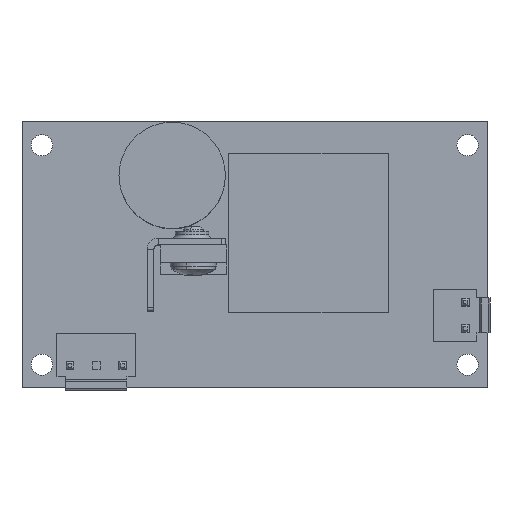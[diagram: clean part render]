
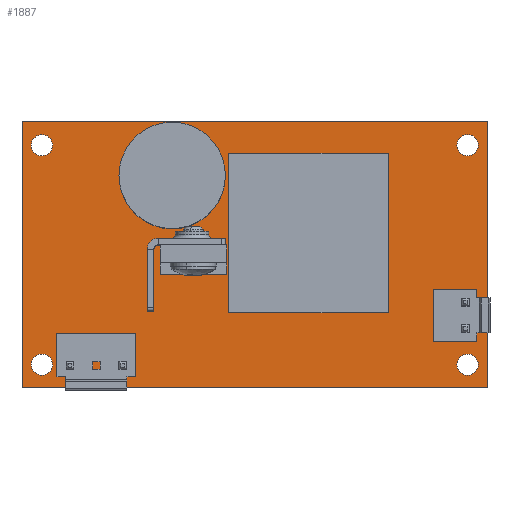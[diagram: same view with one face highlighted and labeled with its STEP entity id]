
A CAD part, top view. The second image highlights one B-rep face of the part: STEP entity #1887.
In plain terms, the highlighted planar face has unit normal (0, 0, 1).
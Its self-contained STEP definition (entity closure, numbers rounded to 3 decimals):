
#8 = VERTEX_POINT ( 'NONE', #8002 ) ;
#31 = FACE_BOUND ( 'NONE', #7561, .T. ) ;
#57 = ORIENTED_EDGE ( 'NONE', *, *, #947, .F. ) ;
#98 = CARTESIAN_POINT ( 'NONE',  ( 3., 22.785, 1.6 ) ) ;
#123 = VERTEX_POINT ( 'NONE', #4369 ) ;
#267 = AXIS2_PLACEMENT_3D ( 'NONE', #830, #5749, #1531 ) ;
#269 = DIRECTION ( 'NONE',  ( 0., 0., 1. ) ) ;
#376 = ORIENTED_EDGE ( 'NONE', *, *, #5726, .F. ) ;
#399 = LINE ( 'NONE', #4264, #9113 ) ;
#421 = CIRCLE ( 'NONE', #4580, 1.6 ) ;
#424 = CARTESIAN_POINT ( 'NONE',  ( 3., 22.785, 1.6 ) ) ;
#467 = VERTEX_POINT ( 'NONE', #5469 ) ;
#599 = DIRECTION ( 'NONE',  ( 1., 0., 0. ) ) ;
#688 = VERTEX_POINT ( 'NONE', #5477 ) ;
#709 = DIRECTION ( 'NONE',  ( 0., 0., 1. ) ) ;
#830 = CARTESIAN_POINT ( 'NONE',  ( 6., -13.715, 1.6 ) ) ;
#947 = EDGE_CURVE ( 'NONE', #7213, #8, #7655, .T. ) ;
#977 = VERTEX_POINT ( 'NONE', #5632 ) ;
#1011 = AXIS2_PLACEMENT_3D ( 'NONE', #3937, #8880, #4667 ) ;
#1027 = AXIS2_PLACEMENT_3D ( 'NONE', #9030, #4825, #599 ) ;
#1224 = DIRECTION ( 'NONE',  ( 0., -1., 0. ) ) ;
#1251 = EDGE_LOOP ( 'NONE', ( #4869, #1327, #6760, #3564 ) ) ;
#1327 = ORIENTED_EDGE ( 'NONE', *, *, #3720, .T. ) ;
#1520 = EDGE_CURVE ( 'NONE', #123, #8098, #8078, .T. ) ;
#1531 = DIRECTION ( 'NONE',  ( 1., 0., 0. ) ) ;
#1887 = ADVANCED_FACE ( 'NONE', ( #31, #7099, #8946, #5210, #3313 ), #3782, .T. ) ;
#1955 = AXIS2_PLACEMENT_3D ( 'NONE', #6291, #2077, #7020 ) ;
#2020 = EDGE_LOOP ( 'NONE', ( #376, #5642 ) ) ;
#2043 = CARTESIAN_POINT ( 'NONE',  ( 7.6, -13.715, 1.6 ) ) ;
#2077 = DIRECTION ( 'NONE',  ( 0., 0., 1. ) ) ;
#2414 = ORIENTED_EDGE ( 'NONE', *, *, #2619, .F. ) ;
#2619 = EDGE_CURVE ( 'NONE', #8098, #123, #5952, .T. ) ;
#2737 = EDGE_CURVE ( 'NONE', #4118, #7961, #7622, .T. ) ;
#2853 = VERTEX_POINT ( 'NONE', #6389 ) ;
#2918 = CIRCLE ( 'NONE', #1027, 1.6 ) ;
#3070 = LINE ( 'NONE', #6805, #6614 ) ;
#3251 = AXIS2_PLACEMENT_3D ( 'NONE', #8700, #269, #5196 ) ;
#3313 = FACE_BOUND ( 'NONE', #2020, .T. ) ;
#3319 = LINE ( 'NONE', #424, #6866 ) ;
#3354 = AXIS2_PLACEMENT_3D ( 'NONE', #4221, #709, #7730 ) ;
#3437 = DIRECTION ( 'NONE',  ( 0., 0., 1. ) ) ;
#3472 = CIRCLE ( 'NONE', #3856, 1.6 ) ;
#3564 = ORIENTED_EDGE ( 'NONE', *, *, #5086, .T. ) ;
#3720 = EDGE_CURVE ( 'NONE', #2853, #7215, #3070, .T. ) ;
#3777 = LINE ( 'NONE', #5336, #5663 ) ;
#3782 = PLANE ( 'NONE',  #3251 ) ;
#3856 = AXIS2_PLACEMENT_3D ( 'NONE', #8183, #3949, #8892 ) ;
#3937 = CARTESIAN_POINT ( 'NONE',  ( 70., 19.285, 1.6 ) ) ;
#3949 = DIRECTION ( 'NONE',  ( 0., 0., 1. ) ) ;
#4049 = CARTESIAN_POINT ( 'NONE',  ( 70., 19.285, 1.6 ) ) ;
#4118 = VERTEX_POINT ( 'NONE', #8099 ) ;
#4159 = CARTESIAN_POINT ( 'NONE',  ( 71.6, 19.285, 1.6 ) ) ;
#4221 = CARTESIAN_POINT ( 'NONE',  ( 6., -13.715, 1.6 ) ) ;
#4264 = CARTESIAN_POINT ( 'NONE',  ( 3., 22.785, 1.6 ) ) ;
#4268 = EDGE_CURVE ( 'NONE', #7961, #4118, #421, .T. ) ;
#4369 = CARTESIAN_POINT ( 'NONE',  ( 68.4, 19.285, 1.6 ) ) ;
#4580 = AXIS2_PLACEMENT_3D ( 'NONE', #7680, #3437, #8381 ) ;
#4667 = DIRECTION ( 'NONE',  ( 1., 0., 0. ) ) ;
#4713 = DIRECTION ( 'NONE',  ( 1., 0., 0. ) ) ;
#4773 = DIRECTION ( 'NONE',  ( 1., 0., 0. ) ) ;
#4825 = DIRECTION ( 'NONE',  ( 0., 0., 1. ) ) ;
#4869 = ORIENTED_EDGE ( 'NONE', *, *, #8790, .T. ) ;
#5038 = ORIENTED_EDGE ( 'NONE', *, *, #2737, .F. ) ;
#5086 = EDGE_CURVE ( 'NONE', #467, #8930, #399, .T. ) ;
#5178 = EDGE_CURVE ( 'NONE', #8, #7213, #6790, .T. ) ;
#5196 = DIRECTION ( 'NONE',  ( 1., 0., 0. ) ) ;
#5210 = FACE_BOUND ( 'NONE', #8716, .T. ) ;
#5272 = DIRECTION ( 'NONE',  ( 0., 1., 0. ) ) ;
#5336 = CARTESIAN_POINT ( 'NONE',  ( 73., 22.785, 1.6 ) ) ;
#5462 = EDGE_CURVE ( 'NONE', #688, #977, #2918, .T. ) ;
#5469 = CARTESIAN_POINT ( 'NONE',  ( 73., 22.785, 1.6 ) ) ;
#5477 = CARTESIAN_POINT ( 'NONE',  ( 71.6, -13.715, 1.6 ) ) ;
#5553 = CARTESIAN_POINT ( 'NONE',  ( 73., -17.215, 1.6 ) ) ;
#5632 = CARTESIAN_POINT ( 'NONE',  ( 68.4, -13.715, 1.6 ) ) ;
#5642 = ORIENTED_EDGE ( 'NONE', *, *, #5462, .F. ) ;
#5663 = VECTOR ( 'NONE', #5272, 1000. ) ;
#5726 = EDGE_CURVE ( 'NONE', #977, #688, #3472, .T. ) ;
#5749 = DIRECTION ( 'NONE',  ( 0., 0., 1. ) ) ;
#5952 = CIRCLE ( 'NONE', #1011, 1.6 ) ;
#5958 = ORIENTED_EDGE ( 'NONE', *, *, #4268, .F. ) ;
#6291 = CARTESIAN_POINT ( 'NONE',  ( 6., 19.285, 1.6 ) ) ;
#6389 = CARTESIAN_POINT ( 'NONE',  ( 3., -17.215, 1.6 ) ) ;
#6457 = EDGE_LOOP ( 'NONE', ( #5038, #5958 ) ) ;
#6614 = VECTOR ( 'NONE', #4713, 1000. ) ;
#6760 = ORIENTED_EDGE ( 'NONE', *, *, #8739, .T. ) ;
#6790 = CIRCLE ( 'NONE', #267, 1.6 ) ;
#6805 = CARTESIAN_POINT ( 'NONE',  ( 3., -17.215, 1.6 ) ) ;
#6866 = VECTOR ( 'NONE', #1224, 1000. ) ;
#7020 = DIRECTION ( 'NONE',  ( 1., 0., 0. ) ) ;
#7099 = FACE_BOUND ( 'NONE', #6457, .T. ) ;
#7213 = VERTEX_POINT ( 'NONE', #2043 ) ;
#7215 = VERTEX_POINT ( 'NONE', #5553 ) ;
#7298 = ORIENTED_EDGE ( 'NONE', *, *, #5178, .F. ) ;
#7561 = EDGE_LOOP ( 'NONE', ( #8921, #2414 ) ) ;
#7622 = CIRCLE ( 'NONE', #1955, 1.6 ) ;
#7655 = CIRCLE ( 'NONE', #3354, 1.6 ) ;
#7680 = CARTESIAN_POINT ( 'NONE',  ( 6., 19.285, 1.6 ) ) ;
#7730 = DIRECTION ( 'NONE',  ( 1., 0., 0. ) ) ;
#7777 = DIRECTION ( 'NONE',  ( -1., 0., 0. ) ) ;
#7961 = VERTEX_POINT ( 'NONE', #8870 ) ;
#8002 = CARTESIAN_POINT ( 'NONE',  ( 4.4, -13.715, 1.6 ) ) ;
#8078 = CIRCLE ( 'NONE', #8393, 1.6 ) ;
#8098 = VERTEX_POINT ( 'NONE', #4159 ) ;
#8099 = CARTESIAN_POINT ( 'NONE',  ( 4.4, 19.285, 1.6 ) ) ;
#8183 = CARTESIAN_POINT ( 'NONE',  ( 70., -13.715, 1.6 ) ) ;
#8381 = DIRECTION ( 'NONE',  ( 1., 0., 0. ) ) ;
#8393 = AXIS2_PLACEMENT_3D ( 'NONE', #4049, #8822, #4773 ) ;
#8700 = CARTESIAN_POINT ( 'NONE',  ( 0., 0., 1.6 ) ) ;
#8716 = EDGE_LOOP ( 'NONE', ( #7298, #57 ) ) ;
#8739 = EDGE_CURVE ( 'NONE', #7215, #467, #3777, .T. ) ;
#8790 = EDGE_CURVE ( 'NONE', #8930, #2853, #3319, .T. ) ;
#8822 = DIRECTION ( 'NONE',  ( 0., 0., 1. ) ) ;
#8870 = CARTESIAN_POINT ( 'NONE',  ( 7.6, 19.285, 1.6 ) ) ;
#8880 = DIRECTION ( 'NONE',  ( 0., 0., 1. ) ) ;
#8892 = DIRECTION ( 'NONE',  ( 1., 0., 0. ) ) ;
#8921 = ORIENTED_EDGE ( 'NONE', *, *, #1520, .F. ) ;
#8930 = VERTEX_POINT ( 'NONE', #98 ) ;
#8946 = FACE_OUTER_BOUND ( 'NONE', #1251, .T. ) ;
#9030 = CARTESIAN_POINT ( 'NONE',  ( 70., -13.715, 1.6 ) ) ;
#9113 = VECTOR ( 'NONE', #7777, 1000. ) ;
